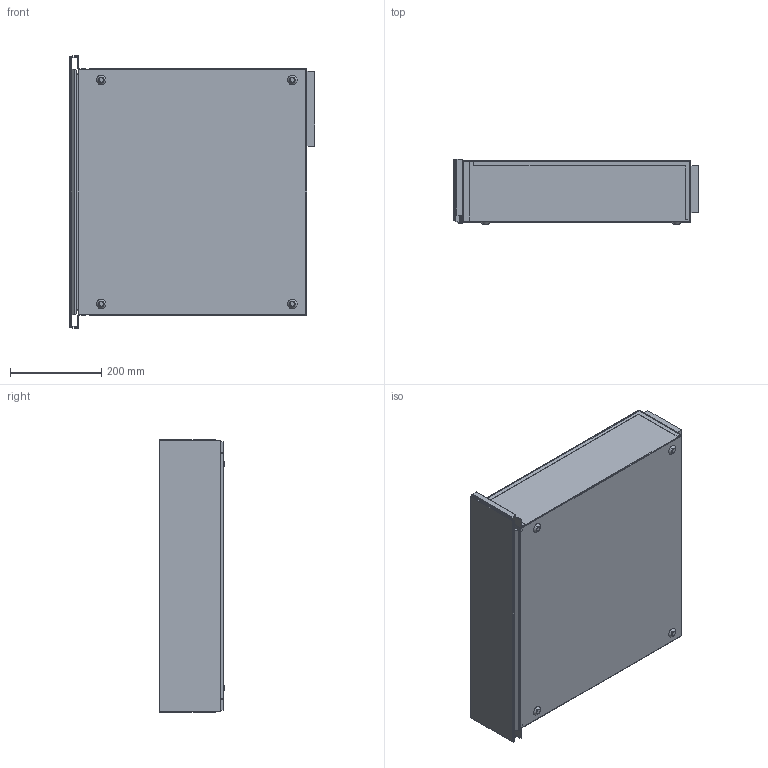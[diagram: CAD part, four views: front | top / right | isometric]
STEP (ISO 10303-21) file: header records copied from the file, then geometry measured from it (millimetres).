
FILE_DESCRIPTION(('CATIA V6 STEP','CAx-IF Rec.Pracs.--- Model Styling and Organization---1.2---2011-12-15'),'2;1');
FILE_NAME('P:\CATIA-UserDaten\3D Planungsdaten\WS-SS\WS_2015-04-16 aktualisiert fuer Albatros\X3401000022-A.stp','2015-04-16T06:20:01+00:00',('none'),('none'),'CATIA Unofficial Packaging Version','DASSAULT SYSTEMES CATIA V6 STEP AP214','none');
FILE_SCHEMA(('AUTOMOTIVE_DESIGN { 1 0 10303 214 1 1 1 1 }'));
Length unit declared in the file: millimetre
Products named in the file (1): 1005006-00
Bounding box: 537 x 142 x 596 mm (x, y, z)
Volume: 5267077 mm3; surface area: 2756510.9 mm2
Topology: 11 solids, 12 shells, 253 faces, 625 edges, 394 vertices
Faces by surface type: plane 144, cylinder 79, cone 16, torus 8, sphere 6
Entity records: 7326 total; most frequent: CARTESIAN_POINT 1488, ORIENTED_EDGE 1238, DIRECTION 1031, EDGE_CURVE 619, VECTOR 426, LINE 426, VERTEX_POINT 394, AXIS2_PLACEMENT_3D 382
